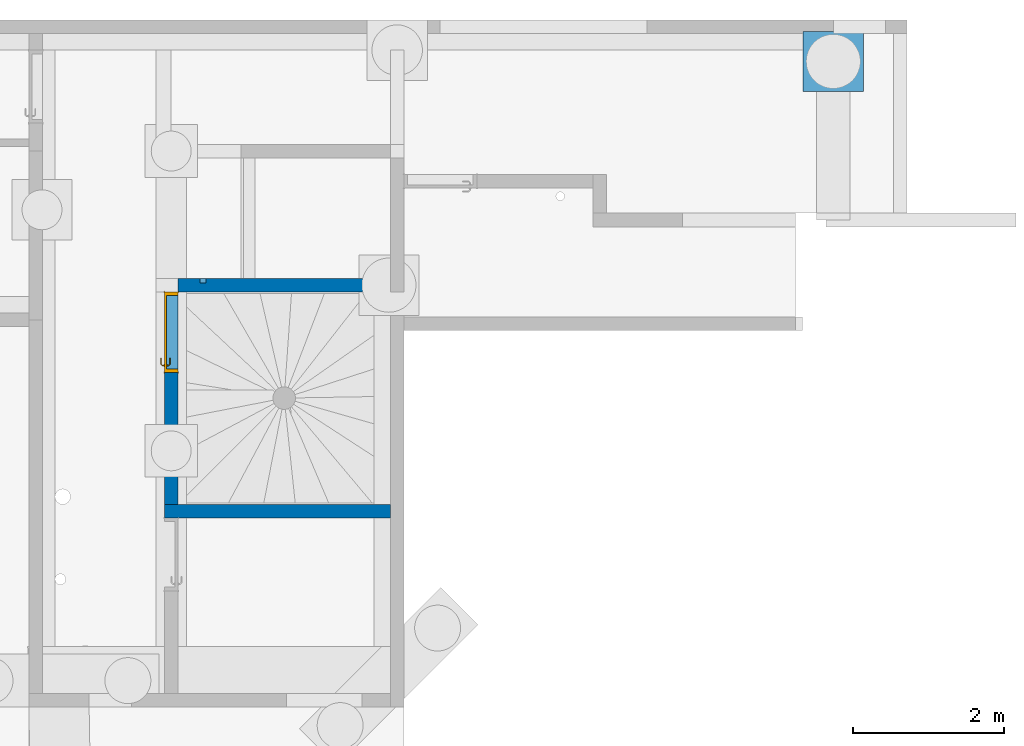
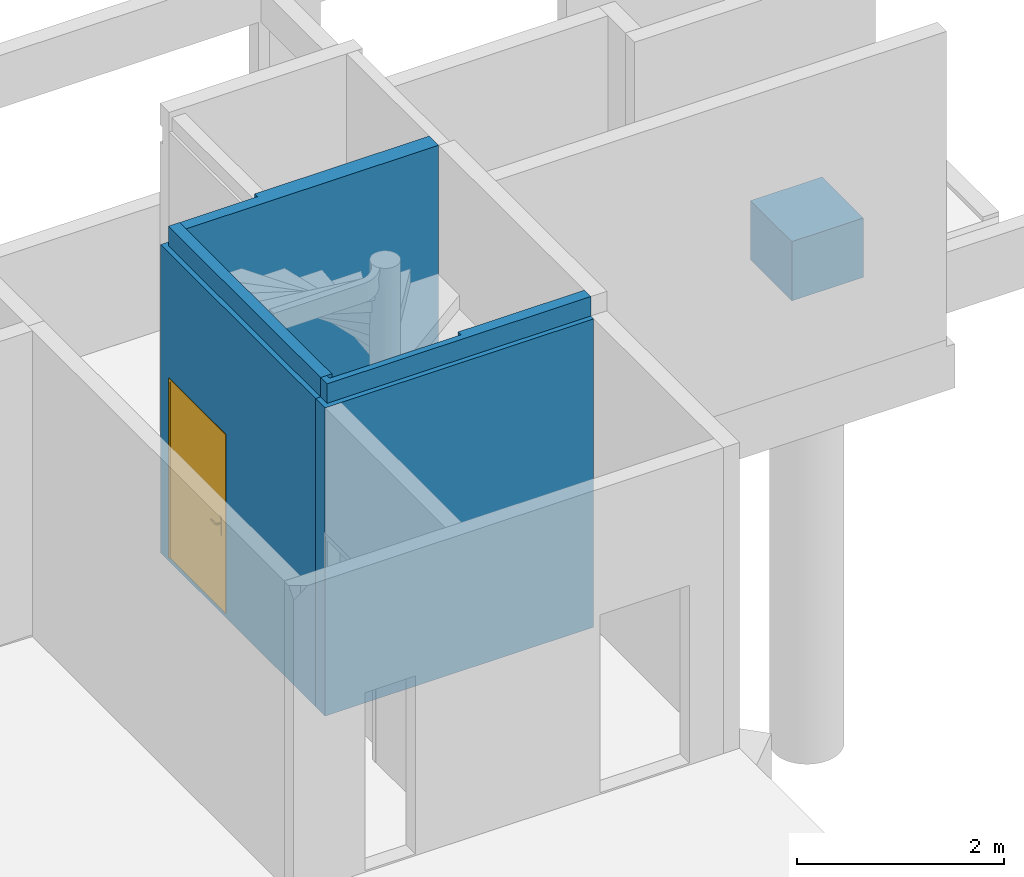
# One storey, part 12 of 14: 3 walls, 1 door, 1 slab, 1 opening.
"""IFC2X3 building model written with IfcOpenShell, lengths in centimetres."""

from ifc_helpers import new_model, entity, si_unit, converted_unit, derived_unit, direction, frame, frame_2d, origin, place, context, subcontext, project, spatial, rectangle, extrude, faceted_brep, source, transform, mapped, material, material_list, layer, layer_set, type_object, type_shapes, element, fill, save


model = new_model("IFC2X3")

# Units and contexts
model_context = context("Model", 3, precision=0.001, world=origin(), true_north=direction((6.12303176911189e-17, 1.0)))
body_context = subcontext(model_context, "Body", "Model", "MODEL_VIEW")
ifc_project = project(units=[si_unit("LENGTHUNIT", "METRE", prefix="CENTI"), si_unit("AREAUNIT", "SQUARE_METRE"), si_unit("VOLUMEUNIT", "CUBIC_METRE"), converted_unit("PLANEANGLEUNIT", "DEGREE", entity("IfcRatioMeasure", 0.0174532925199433), si_unit("PLANEANGLEUNIT", "RADIAN"), dimensions=[0, 0, 0, 0, 0, 0, 0]), si_unit("MASSUNIT", "GRAM", prefix="KILO"), derived_unit("MASSDENSITYUNIT", [(si_unit("MASSUNIT", "GRAM", prefix="KILO"), 1), (si_unit("LENGTHUNIT", "METRE"), -3)]), si_unit("TIMEUNIT", "SECOND"), si_unit("FREQUENCYUNIT", "HERTZ"), si_unit("THERMODYNAMICTEMPERATUREUNIT", "DEGREE_CELSIUS"), derived_unit("THERMALTRANSMITTANCEUNIT", [(si_unit("MASSUNIT", "GRAM", prefix="KILO"), 1), (si_unit("THERMODYNAMICTEMPERATUREUNIT", "KELVIN"), -1), (si_unit("TIMEUNIT", "SECOND"), -3)]), derived_unit("VOLUMETRICFLOWRATEUNIT", [(si_unit("LENGTHUNIT", "METRE"), 3), (si_unit("TIMEUNIT", "SECOND"), -1)]), si_unit("ELECTRICCURRENTUNIT", "AMPERE"), si_unit("ELECTRICVOLTAGEUNIT", "VOLT"), si_unit("POWERUNIT", "WATT"), si_unit("FORCEUNIT", "NEWTON"), si_unit("ILLUMINANCEUNIT", "LUX"), si_unit("LUMINOUSFLUXUNIT", "LUMEN"), si_unit("LUMINOUSINTENSITYUNIT", "CANDELA"), derived_unit("USERDEFINED", [(si_unit("MASSUNIT", "GRAM", prefix="KILO"), -1), (si_unit("LENGTHUNIT", "METRE"), -2), (si_unit("TIMEUNIT", "SECOND"), 3), (si_unit("LUMINOUSFLUXUNIT", "LUMEN"), 1)]), derived_unit("LINEARVELOCITYUNIT", [(si_unit("LENGTHUNIT", "METRE"), 1), (si_unit("TIMEUNIT", "SECOND"), -1)]), si_unit("PRESSUREUNIT", "PASCAL"), derived_unit("USERDEFINED", [(si_unit("LENGTHUNIT", "METRE"), -2), (si_unit("MASSUNIT", "GRAM", prefix="KILO"), 1), (si_unit("TIMEUNIT", "SECOND"), -2)])], contexts=[model_context])

# Site, building, storey
site_placement = place(None, origin())
site = spatial("IfcSite", under=ifc_project, at=site_placement, Name="Default", CompositionType="ELEMENT")
building_placement = place(site_placement, origin())
building = spatial("IfcBuilding", under=site, at=building_placement, Name="CAGE 03", CompositionType="ELEMENT")
storey_placement = place(building_placement, frame((0.0, 0.0, -42.0)))
storey = spatial("IfcBuildingStorey", under=building, at=storey_placement, Name="+3.58", CompositionType="ELEMENT", Elevation=-42.0000000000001)

# Slab
ifc_material_1 = material(Name="Béton, C25/30")
slab_placement = place(storey_placement, frame((11038.3658201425, 5198.66066607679, -155.0)))
element("IfcSlab", 1, at=slab_placement, inside=storey, material=ifc_material_1, Name="M_Base-Rectangulaire:80x80x70ht", ObjectType="M_Base-Rectangulaire:80x80x70ht", PredefinedType="BASESLAB", context=body_context, shape_type="Brep", body=[
    faceted_brep([(80.0, 80.0, 70.0), (0.0, 80.0, 70.0), (0.0, 0.0, 70.0), (80.0, 0.0, 70.0), (0.0, 0.0, 0.0), (4.0, 40.0, 0.0), (6.44952623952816, 33.6770439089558, 0.0), (0.0, 80.0, 0.0), (8.69783949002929, 27.8734784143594, 0.0), (11.0467592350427, 21.8102176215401, 0.0), (13.3956789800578, 15.7469568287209, 0.0), (20.8771744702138, 12.848610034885, 0.0), (28.3586699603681, 9.9502632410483, 0.0), (35.8401654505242, 7.05191644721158, 0.0), (43.3216609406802, 4.15356965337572, 0.0), (80.0, 0.0, 0.0), (6.44952614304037, 46.3229558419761, 0.0), (8.89905228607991, 52.6459116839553, 0.0), (11.1473656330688, 58.4494774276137, 0.0), (13.3956789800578, 64.253043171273, 0.0), (19.2163439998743, 67.1513899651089, 0.0), (25.0370090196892, 70.0497367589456, 0.0), (30.8576740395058, 72.9480835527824, 0.0), (36.6783390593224, 75.8464303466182, 0.0), (80.0, 80.0, 0.0), (76.0, 40.0, 0.0), (73.5504738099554, 46.3229559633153, 0.0), (71.3021605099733, 52.1265215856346, 0.0), (68.9532407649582, 58.1897823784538, 0.0), (66.6043210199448, 64.253043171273, 0.0), (59.1228255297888, 67.1513899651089, 0.0), (51.6413300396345, 70.0497367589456, 0.0), (44.1598345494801, 72.9480835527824, 0.0), (49.1423259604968, 7.05191644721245, 0.0), (54.9629909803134, 9.9502632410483, 0.0), (60.7836560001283, 12.8486100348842, 0.0), (66.6043210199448, 15.7469568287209, 0.0), (68.852634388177, 21.5505226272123, 0.0), (71.1009477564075, 27.3540884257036, 0.0), (73.5504738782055, 33.6770442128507, 0.0), (66.6043210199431, 15.7469568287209, 15.0), (59.1228255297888, 12.848610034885, 15.0), (51.6413300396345, 9.9502632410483, 15.0), (44.1598345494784, 7.05191644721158, 15.0), (36.6783390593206, 4.15356965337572, 15.0), (30.8576740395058, 7.05191644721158, 15.0), (25.0370090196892, 9.9502632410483, 15.0), (19.2163439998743, 12.848610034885, 15.0), (13.395678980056, 15.7469568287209, 15.0), (11.0467592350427, 21.8102176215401, 15.0), (8.69783949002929, 27.8734784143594, 15.0), (6.34891974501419, 33.9367392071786, 15.0), (4.0, 40.0, 15.0), (6.44952613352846, 46.322955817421, 15.0), (8.69783949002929, 52.1265215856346, 15.0), (11.0467592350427, 58.1897823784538, 15.0), (13.395678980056, 64.253043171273, 15.0), (20.8771744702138, 67.1513899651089, 15.0), (28.3586699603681, 70.0497367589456, 15.0), (35.8401654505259, 72.9480835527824, 15.0), (43.3216609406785, 75.8464303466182, 15.0), (49.1423259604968, 72.9480835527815, 15.0), (54.9629909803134, 70.0497367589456, 15.0), (60.78365600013, 67.1513899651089, 15.0), (66.6043210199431, 64.253043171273, 15.0), (68.9532407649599, 58.1897823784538, 15.0), (71.3021605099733, 52.1265215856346, 15.0), (73.6510802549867, 46.0632607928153, 15.0), (76.0, 40.0, 15.0), (73.5504738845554, 33.6770442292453, 15.0), (71.3021605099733, 27.8734784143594, 15.0), (68.9532407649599, 21.8102176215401, 15.0)], [[[0, 1, 2, 3]], [[4, 5, 6]], [[5, 4, 7]], [[4, 6, 8]], [[4, 8, 9]], [[4, 9, 10]], [[4, 10, 11]], [[4, 11, 12]], [[4, 12, 13]], [[4, 13, 14]], [[14, 15, 4]], [[7, 16, 5]], [[7, 17, 16]], [[7, 18, 17]], [[7, 19, 18]], [[7, 20, 19]], [[7, 21, 20]], [[7, 22, 21]], [[7, 23, 22]], [[23, 7, 24]], [[25, 24, 15]], [[24, 25, 26]], [[24, 26, 27]], [[24, 27, 28]], [[24, 28, 29]], [[24, 29, 30]], [[24, 30, 31]], [[24, 31, 32]], [[24, 32, 23]], [[15, 14, 33]], [[15, 33, 34]], [[15, 34, 35]], [[15, 35, 36]], [[15, 36, 37]], [[15, 37, 38]], [[15, 38, 39]], [[15, 39, 25]], [[2, 1, 7, 4]], [[3, 2, 4, 15]], [[0, 3, 15, 24]], [[1, 0, 24, 7]], [[40, 41, 42, 43, 44, 45, 46, 47, 48, 49, 50, 51, 52, 53, 54, 55, 56, 57, 58, 59, 60, 61, 62, 63, 64, 65, 66, 67, 68, 69, 70, 71]], [[9, 8, 6, 5, 52, 51, 50, 49, 48, 10]], [[36, 35, 40]], [[10, 48, 47]], [[14, 43, 33]], [[42, 33, 43]], [[37, 36, 40, 71, 70, 69, 68, 25, 39, 38]], [[35, 34, 41]], [[44, 43, 14]], [[42, 41, 34]], [[35, 41, 40]], [[47, 46, 11]], [[11, 46, 12]], [[12, 46, 45]], [[44, 13, 45]], [[11, 10, 47]], [[12, 45, 13]], [[44, 14, 13]], [[42, 34, 33]], [[29, 28, 27, 26, 25, 68, 67, 66, 65, 64]], [[31, 30, 62]], [[63, 29, 64]], [[57, 56, 20]], [[18, 19, 56, 55, 54, 53, 52, 5, 16, 17]], [[20, 21, 57]], [[56, 19, 20]], [[23, 32, 60]], [[30, 29, 63]], [[62, 30, 63]], [[31, 61, 32]], [[23, 59, 22]], [[57, 21, 58]], [[58, 21, 22]], [[60, 32, 61]], [[31, 62, 61]], [[58, 22, 59]], [[23, 60, 59]]]),
])

# Wall
ifc_layer = layer(ifc_material_1, 18.0)
ifc_layer_set = layer_set([ifc_layer], Name="Mur de base:Voile BA 18")
wall_type = type_object("IfcWallType", Name="Mur de base:Voile BA 18", PredefinedType="STANDARD", material=ifc_layer_set)
wall_1_placement = place(storey_placement, frame((10490.3658201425, 4641.66066607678, -5.0), z_axis=(0.0, 0.0, 1.0), x_axis=(-1.0, 0.0, 0.0)))
element("IfcWall", 2, at=wall_1_placement, inside=storey, type_object=wall_type, Name="Mur de base:Voile BA 18", ObjectType="Mur de base:Voile BA 18", context=body_context, shape_type="Brep", body=[
    faceted_brep([(0.0, -9.0, 0.0), (282.0, -9.0, 0.0), (300.0, -9.0, 0.0), (300.0, -9.0, 364.0), (294.499999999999, -9.0, 364.0), (294.499999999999, -9.0, 387.0), (287.50000000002, -9.0, 387.0), (287.50000000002, -9.0, 367.0), (141.0, -9.0, 367.0), (141.0, -9.0, 387.0), (0.0, -9.0, 387.0), (300.0, 9.0, 0.0), (0.0, 9.0, 0.0), (0.0, 9.0, 364.0), (282.0, 9.0, 364.0), (300.0, 9.0, 364.0), (300.0, 9.0, 215.0), (294.499999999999, 3.50000000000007, 387.0), (0.0, 3.50000000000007, 387.0), (141.0, -3.49999999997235, 387.0), (287.500000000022, -3.50000000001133, 387.0), (0.0, 3.50000000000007, 364.0), (294.499999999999, 3.50000000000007, 364.0), (287.500000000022, -3.50000000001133, 367.0), (141.0, -3.49999999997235, 367.0)], [[[0, 1, 2, 3, 4, 5, 6, 7, 8, 9, 10]], [[11, 12, 13, 14, 15, 16]], [[2, 1, 0, 12, 11]], [[5, 17, 18, 10, 9, 19, 20, 6]], [[0, 10, 18, 21, 13, 12]], [[2, 11, 16, 15, 3]], [[22, 4, 3, 15, 14, 13, 21]], [[22, 17, 5, 4]], [[17, 22, 21, 18]], [[23, 24, 8, 7]], [[24, 19, 9, 8]], [[20, 23, 7, 6]], [[24, 23, 20, 19]]]),
])

# Wall, opening, door
wall_2_placement = place(storey_placement, frame((10199.3658201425, 4650.66066607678, -5.0), z_axis=(0.0, 0.0, 1.0), x_axis=(0.0, 1.0, 0.0)))
wall_2 = element("IfcWall", 3, at=wall_2_placement, inside=storey, type_object=wall_type, Name="Mur de base:Voile BA 18", ObjectType="Mur de base:Voile BA 18", context=body_context, shape_type="Brep", body=[
    faceted_brep([(0.0, -9.0, 0.0), (282.0, -9.0, 0.0), (300.0, -9.0, 0.0), (300.0, -9.0, 364.0), (294.500000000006, -9.0, 364.0), (294.500000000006, -9.0, 387.0), (282.0, -9.0, 387.0), (107.0, -9.0, 387.0), (0.0, -9.0, 387.0), (282.0, -9.0, 215.0), (282.0, -9.0, 5.0), (175.0, -9.0, 5.0), (175.0, -9.0, 215.0), (300.0, 9.0, 0.0), (0.0, 9.0, 0.0), (0.0, 9.0, 364.0), (300.0, 9.0, 364.0), (282.0, 9.0, 5.0), (282.0, 9.0, 215.0), (175.0, 9.0, 215.0), (175.0, 9.0, 5.0), (294.500000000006, 3.49999999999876, 387.0), (0.0, 3.49999999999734, 387.0), (0.0, -3.49999999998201, 387.0), (0.0, 3.49999999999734, 364.0), (294.500000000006, 3.49999999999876, 364.0)], [[[0, 1, 2, 3, 4, 5, 6, 7, 8], [9, 10, 11, 12]], [[13, 14, 15, 16], [17, 18, 19, 20]], [[2, 1, 0, 14, 13]], [[8, 7, 6, 5, 21, 22, 23]], [[2, 13, 16, 3]], [[17, 10, 9, 18]], [[18, 9, 12, 19]], [[11, 20, 19, 12]], [[10, 17, 20, 11]], [[14, 0, 8, 23, 22, 24, 15]], [[25, 4, 3, 16, 15, 24]], [[21, 25, 24, 22]], [[25, 21, 5, 4]]]),
])
opening_placement = place(wall_2_placement, frame((175.0, -9.0, 5.0)))
opening = element("IfcOpeningElement", 4, at=opening_placement, cuts=wall_2, Name="Int. Simple:HB103:1", ObjectType="Opening", context=body_context, shape_type="SweptSolid", body=[
    extrude(rectangle(XDim=210.000000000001, YDim=107.0, at=frame_2d((105.000000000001, 53.4999999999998), x_axis=(1.0, 0.0))), frame((0.0, 0.0, 0.0), z_axis=(0.0, 1.0, 0.0), x_axis=(0.0, 0.0, 1.0)), (0.0, 0.0, 1.0), 18.0),
])
ifc_material_2 = material(Name="Finition Peinture - Blanc satiné")
ifc_material_3 = material(Name="Bois - Panneau de porte")
ifc_material_4 = material(Name="Bois - Cadre de porte")
ifc_material_list_1 = material_list([ifc_material_2, ifc_material_3, ifc_material_4])
ifc_material_list_2 = material_list([ifc_material_2, ifc_material_3, ifc_material_4])
door_style = type_object("IfcDoorStyle", Name="HB103", ConstructionType="NOTDEFINED", OperationType="SINGLE_SWING_RIGHT", ParameterTakesPrecedence=False, Sizeable=False, material=ifc_material_list_2)
shared_shape = source(origin(), body_context, "Body", "Brep", [
    faceted_brep([(106.500000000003, -0.500000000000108, 87.0), (106.500000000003, -0.500000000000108, 108.0), (105.535276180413, -0.500000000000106, 108.399601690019), (104.500000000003, -0.500000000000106, 108.535898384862), (103.464723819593, -0.500000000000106, 108.399601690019), (102.500000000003, -0.500000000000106, 108.0), (102.500000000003, -0.500000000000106, 87.0), (103.464723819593, -0.500000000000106, 86.6003983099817), (104.500000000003, -0.500000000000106, 86.464101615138), (105.535276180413, -0.500000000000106, 86.6003983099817), (106.500000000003, 0.0, 108.0), (106.500000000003, 0.0, 87.0), (105.535276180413, 0.0, 86.6003983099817), (104.500000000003, 0.0, 86.464101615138), (103.464723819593, 0.0, 86.6003983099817), (102.500000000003, 0.0, 87.0), (102.500000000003, 0.0, 108.0), (103.464723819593, 0.0, 108.399601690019), (104.500000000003, 0.0, 108.535898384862), (105.535276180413, 0.0, 108.399601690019)], [[[0, 1, 2, 3, 4, 5, 6, 7, 8, 9]], [[10, 11, 12, 13, 14, 15, 16, 17, 18, 19]], [[9, 12, 11, 0]], [[8, 13, 12, 9]], [[7, 14, 13, 8]], [[7, 6, 15, 14]], [[15, 6, 5, 16]], [[4, 17, 16, 5]], [[3, 18, 17, 4]], [[2, 19, 18, 3]], [[2, 1, 10, 19]], [[11, 10, 1, 0]]]),
    faceted_brep([(106.500000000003, 3.0, 87.0), (106.500000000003, 3.0, 108.0), (105.535276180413, 3.0, 108.399601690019), (104.500000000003, 3.0, 108.535898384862), (103.464723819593, 3.0, 108.399601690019), (102.500000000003, 3.0, 108.0), (102.500000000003, 3.0, 87.0), (103.464723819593, 3.0, 86.6003983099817), (104.500000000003, 3.0, 86.464101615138), (105.535276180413, 3.0, 86.6003983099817), (104.500000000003, 3.49999999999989, 108.535898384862), (105.535276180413, 3.49999999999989, 108.399601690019), (106.500000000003, 3.49999999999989, 108.0), (106.500000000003, 3.49999999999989, 87.0), (105.535276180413, 3.49999999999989, 86.6003983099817), (104.500000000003, 3.49999999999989, 86.464101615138), (103.464723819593, 3.49999999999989, 86.6003983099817), (102.500000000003, 3.49999999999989, 87.0), (102.500000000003, 3.49999999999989, 108.0), (103.464723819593, 3.49999999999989, 108.399601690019)], [[[0, 1, 2, 3, 4, 5, 6, 7, 8, 9]], [[10, 11, 12, 13, 14, 15, 16, 17, 18, 19]], [[4, 19, 18, 5]], [[3, 10, 19, 4]], [[2, 11, 10, 3]], [[2, 1, 12, 11]], [[13, 12, 1, 0]], [[9, 14, 13, 0]], [[8, 15, 14, 9]], [[7, 16, 15, 8]], [[7, 6, 17, 16]], [[17, 6, 5, 18]]]),
    faceted_brep([(104.297470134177, -0.500000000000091, 100.778044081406), (104.702529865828, -0.500000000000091, 100.778044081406), (105.100000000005, -0.500000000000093, 100.699999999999), (105.100000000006, -0.500000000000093, 99.299999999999), (104.702529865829, -0.500000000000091, 99.2219559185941), (104.297470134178, -0.500000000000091, 99.2219559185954), (103.9, -0.500000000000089, 99.3000000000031), (103.9, -0.500000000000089, 100.7), (104.702529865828, -3.1004575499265, 100.778044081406), (105.100000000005, -3.26509507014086, 100.7), (104.297470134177, -2.93267631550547, 100.778044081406), (102.92986024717, -4.30028620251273, 100.778044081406), (103.097641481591, -4.70534593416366, 100.778044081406), (103.9, -2.76803879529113, 100.7), (103.9, -2.76803879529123, 99.3000000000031), (104.297470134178, -2.93267631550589, 99.2219559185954), (104.702529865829, -3.10045754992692, 99.2219559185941), (103.097641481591, -4.70534593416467, 99.2219559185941), (102.92986024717, -4.30028620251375, 99.2219559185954), (105.100000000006, -3.26509507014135, 99.299999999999), (103.262279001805, -5.10281606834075, 100.7), (102.765222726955, -3.90281606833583, 100.7), (102.765222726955, -3.90281606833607, 99.3000000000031), (103.262279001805, -5.10281606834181, 99.299999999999), (94.4981359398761, -5.1028160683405, 100.7), (94.4981359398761, -4.7053459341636, 100.778044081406), (94.4981359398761, -4.30028620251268, 100.778044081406), (94.4981359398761, -3.90281606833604, 100.699999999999), (94.4981359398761, -3.90281606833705, 99.3000000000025), (94.4981359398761, -4.30028620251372, 99.2219559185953), (94.4981359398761, -4.70534593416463, 99.2219559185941), (94.4981359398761, -5.10281606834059, 99.2999999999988), (98.7139980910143, -4.50281606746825, 100.78786867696), (99.2692302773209, -5.10281606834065, 100.7), (98.6316793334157, -3.90281606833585, 100.7), (98.6316793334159, -3.90281606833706, 99.3000000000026), (98.7139981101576, -4.50281607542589, 99.2121313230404), (99.2692299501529, -5.10281606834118, 99.2999999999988)], [[[0, 1, 2, 3, 4, 5, 6, 7]], [[2, 1, 8, 9]], [[1, 0, 10, 11, 12, 8]], [[0, 7, 13, 10]], [[14, 13, 7, 6]], [[5, 15, 14, 6]], [[5, 4, 16, 17, 18, 15]], [[3, 19, 16, 4]], [[9, 19, 3, 2]], [[9, 8, 12, 20]], [[10, 13, 21, 11]], [[22, 21, 13, 14]], [[14, 15, 18, 22]], [[16, 19, 23, 17]], [[20, 23, 19, 9]], [[24, 25, 26, 27, 28, 29, 30, 31]], [[32, 25, 33]], [[33, 25, 24]], [[33, 20, 12]], [[11, 34, 32]], [[34, 11, 21]], [[27, 26, 34]], [[32, 26, 25]], [[32, 34, 26]], [[32, 33, 12]], [[11, 32, 12]], [[21, 22, 35, 28, 27, 34]], [[36, 29, 35]], [[30, 36, 37]], [[18, 35, 22]], [[29, 28, 35]], [[30, 37, 31]], [[37, 17, 23]], [[36, 17, 37]], [[36, 18, 17]], [[36, 35, 18]], [[29, 36, 30]], [[23, 20, 33, 24, 31, 37]]]),
    faceted_brep([(104.297470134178, 3.49999999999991, 99.2219559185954), (104.702529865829, 3.49999999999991, 99.2219559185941), (105.100000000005, 3.4999999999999, 99.2999999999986), (105.100000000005, 3.4999999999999, 100.7), (104.702529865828, 3.49999999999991, 100.778044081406), (104.297470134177, 3.49999999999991, 100.778044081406), (103.9, 3.49999999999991, 100.7), (103.900000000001, 3.49999999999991, 99.3000000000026), (103.9, 5.74852045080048, 100.7), (103.9, 5.74852045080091, 99.3000000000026), (104.297470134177, 5.91315797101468, 100.778044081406), (104.702529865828, 6.08093920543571, 100.778044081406), (103.083890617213, 7.69957845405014, 100.778044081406), (102.916109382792, 7.29451872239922, 100.778044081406), (105.100000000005, 6.24557672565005, 100.7), (105.100000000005, 6.2455767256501, 99.2999999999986), (104.702529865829, 6.08093920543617, 99.2219559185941), (104.297470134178, 5.91315797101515, 99.2219559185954), (102.916109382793, 7.29451872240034, 99.2219559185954), (103.083890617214, 7.69957845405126, 99.2219559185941), (102.751471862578, 6.89704858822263, 100.7), (102.751471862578, 6.89704858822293, 99.3000000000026), (103.248528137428, 8.09704858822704, 100.7), (103.248528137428, 8.09704858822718, 99.2999999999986), (94.4954216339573, 7.29451872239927, 100.778044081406), (94.4954216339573, 7.6995784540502, 100.778044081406), (94.4954216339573, 8.0970485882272, 100.7), (94.4954216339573, 8.09704858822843, 99.299999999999), (94.4954216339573, 7.6995784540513, 99.2219559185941), (94.4954216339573, 7.29451872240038, 99.2219559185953), (94.4954216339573, 6.89704858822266, 99.3000000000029), (94.4954216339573, 6.89704858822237, 100.7), (98.6234467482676, 6.89704858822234, 100.7), (98.6234479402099, 6.89704858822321, 99.3000000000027), (98.7057655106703, 7.4970485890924, 100.78786867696), (99.255479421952, 8.09704858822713, 100.7), (99.2554794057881, 8.09704858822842, 99.299999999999), (98.7057654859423, 7.49704858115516, 99.2121313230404)], [[[0, 1, 2, 3, 4, 5, 6, 7]], [[8, 9, 7, 6]], [[5, 10, 8, 6]], [[5, 4, 11, 12, 13, 10]], [[3, 14, 11, 4]], [[14, 3, 2, 15]], [[2, 1, 16, 15]], [[1, 0, 17, 18, 19, 16]], [[0, 7, 9, 17]], [[20, 21, 9, 8]], [[8, 10, 13, 20]], [[14, 22, 12, 11]], [[23, 22, 14, 15]], [[15, 16, 19, 23]], [[17, 9, 21, 18]], [[24, 25, 26, 27, 28, 29, 30, 31]], [[20, 32, 31, 30, 33, 21]], [[34, 24, 32]], [[25, 34, 35]], [[13, 32, 20]], [[24, 31, 32]], [[25, 35, 26]], [[35, 12, 22]], [[34, 12, 35]], [[34, 13, 12]], [[34, 32, 13]], [[24, 34, 25]], [[22, 23, 36, 27, 26, 35]], [[37, 28, 36]], [[36, 28, 27]], [[36, 23, 19]], [[18, 33, 37]], [[33, 18, 21]], [[30, 29, 33]], [[37, 29, 28]], [[37, 33, 29]], [[37, 36, 19]], [[18, 37, 19]]]),
    faceted_brep([(110.500000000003, 3.0, 206.5), (110.500000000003, 3.0, 0.0), (10.5000000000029, 3.0, 0.0), (10.5000000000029, 3.0, 206.5), (110.500000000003, 0.0, 206.5), (10.5000000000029, 0.0, 206.5), (10.5000000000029, 0.0, 0.0), (110.500000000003, 0.0, 0.0)], [[[0, 1, 2, 3]], [[4, 5, 6, 7]], [[3, 5, 4, 0]], [[2, 6, 5, 3]], [[1, 7, 6, 2]], [[0, 4, 7, 1]]]),
    faceted_brep([(114.0, 0.0, 0.0), (110.500000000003, 0.0, 0.0), (110.500000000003, 3.0, 0.0), (109.0, 3.0, 0.0), (109.0, 18.0, 0.0), (114.0, 18.0, 0.0), (114.0, 18.0, 210.0), (114.0, 0.0, 210.0), (109.0, 18.0, 205.0), (12.0, 18.0, 205.0), (12.0, 18.0, 0.0), (7.0, 18.0, 0.0), (7.0, 18.0, 210.0), (109.0, 3.0, 205.0), (110.500000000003, 3.0, 206.5), (10.5000000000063, 3.0, 206.5), (10.5000000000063, 3.0, 0.0), (12.0, 3.0, 0.0), (12.0, 3.0, 205.0), (110.500000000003, 0.0, 206.5), (7.0, 0.0, 210.0), (7.0, 0.0, 0.0), (10.5000000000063, 0.0, 0.0), (10.5000000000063, 0.0, 206.5)], [[[0, 1, 2, 3, 4, 5]], [[5, 6, 7, 0]], [[4, 8, 9, 10, 11, 12, 6, 5]], [[3, 13, 8, 4]], [[2, 14, 15, 16, 17, 18, 13, 3]], [[1, 19, 14, 2]], [[0, 7, 20, 21, 22, 23, 19, 1]], [[12, 11, 21, 20]], [[21, 11, 10, 17, 16, 22]], [[18, 17, 10, 9]], [[23, 22, 16, 15]], [[6, 12, 20, 7]], [[13, 18, 9, 8]], [[19, 23, 15, 14]]]),
    faceted_brep([(112.500000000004, 18.0, 0.0), (112.500000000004, 18.5000000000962, 0.0), (115.500000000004, 18.5000000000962, 0.0), (115.500000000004, 18.0, 0.0), (115.500000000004, 18.0, 211.500000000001), (5.50000000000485, 18.0, 211.500000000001), (5.50000000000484, 18.0, 0.0), (8.50000000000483, 18.0, 0.0), (8.50000000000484, 18.0, 208.500000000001), (112.500000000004, 18.0, 208.500000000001), (115.500000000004, 18.5000000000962, 211.500000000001), (112.500000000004, 18.5000000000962, 208.500000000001), (8.50000000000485, 18.5000000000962, 208.500000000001), (8.50000000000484, 18.5000000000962, 0.0), (5.50000000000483, 18.5000000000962, 0.0), (5.50000000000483, 18.5000000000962, 211.500000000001)], [[[0, 1, 2, 3]], [[3, 4, 5, 6, 7, 8, 9, 0]], [[2, 10, 4, 3]], [[1, 11, 12, 13, 14, 15, 10, 2]], [[0, 9, 11, 1]], [[7, 6, 14, 13]], [[8, 7, 13, 12]], [[15, 14, 6, 5]], [[10, 15, 5, 4]], [[9, 8, 12, 11]]]),
    faceted_brep([(115.500000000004, -0.5, 0.0), (115.500000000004, -0.5, 211.500000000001), (5.50000000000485, -0.5, 211.500000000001), (5.50000000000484, -0.5, 0.0), (8.50000000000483, -0.5, 0.0), (8.50000000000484, -0.5, 208.500000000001), (112.500000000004, -0.5, 208.500000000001), (112.500000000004, -0.5, 0.0), (115.500000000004, 0.0, 0.0), (115.500000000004, 0.0, 211.500000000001), (112.500000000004, 0.0, 0.0), (112.500000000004, 0.0, 208.500000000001), (8.50000000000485, 0.0, 208.500000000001), (8.50000000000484, 0.0, 0.0), (5.50000000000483, 0.0, 0.0), (5.50000000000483, 0.0, 211.500000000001)], [[[0, 1, 2, 3, 4, 5, 6, 7]], [[8, 9, 1, 0]], [[10, 11, 12, 13, 14, 15, 9, 8]], [[7, 6, 11, 10]], [[5, 4, 13, 12]], [[15, 14, 3, 2]], [[9, 15, 2, 1]], [[6, 5, 12, 11]], [[4, 3, 14, 13]], [[7, 10, 8, 0]]]),
])
type_shapes(door_style, [shared_shape])
door_placement = place(opening_placement, frame((114.0, 18.0, 0.0), z_axis=(0.0, 0.0, 1.0), x_axis=(-1.0, 0.0, 0.0)))
door = element("IfcDoor", 5, at=door_placement, inside=storey, type_object=door_style, material=ifc_material_list_1, Name="Int. Simple:HB103", ObjectType="HB103", OverallHeight=210.000000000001, OverallWidth=107.0, context=body_context, shape_type="MappedRepresentation", body=[
    mapped(shared_shape, transform((0.0, 0.0, 0.0), scale=1.0)),
])
fill(opening, door)

# Wall
wall_3_placement = place(storey_placement, frame((10208.3658201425, 4941.66066607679, -5.0)))
element("IfcWall", 6, at=wall_3_placement, inside=storey, type_object=wall_type, Name="Mur de base:Voile BA 18", ObjectType="Mur de base:Voile BA 18", context=body_context, shape_type="Brep", body=[
    faceted_brep([(0.0, -9.0, 0.0), (87.0, -9.0, 0.0), (282.0, -9.0, 0.0), (282.0, -9.0, 387.0), (0.0, -9.0, 387.0), (0.0, -9.0, 215.0), (0.0, -9.0, 5.0), (282.0, 9.0, 0.0), (87.0, 9.0, 0.0), (0.0, 9.0, 0.0), (0.0, 9.0, 364.0), (87.0, 9.0, 364.0), (87.0, 9.0, 387.0), (282.0, 9.0, 387.0), (29.0, 9.0, 120.5), (29.0, 9.0, 99.5000000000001), (37.0, 9.0, 99.5000000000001), (37.0, 9.0, 120.5), (87.0, 3.50000000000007, 387.0), (0.0, 3.50000000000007, 387.0), (0.0, 3.50000000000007, 364.0), (87.0, 3.50000000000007, 364.0), (37.0, 3.0, 120.5), (37.0, 3.0, 99.5000000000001), (29.0, 3.0, 99.5000000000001), (29.0, 3.0, 120.5)], [[[0, 1, 2, 3, 4, 5, 6]], [[7, 8, 9, 10, 11, 12, 13], [14, 15, 16, 17]], [[2, 1, 0, 9, 8, 7]], [[4, 3, 13, 12, 18, 19]], [[0, 6, 5, 4, 19, 20, 10, 9]], [[3, 2, 7, 13]], [[20, 21, 11, 10]], [[21, 18, 12, 11]], [[18, 21, 20, 19]], [[22, 23, 24, 25]], [[25, 24, 15, 14]], [[24, 23, 16, 15]], [[23, 22, 17, 16]], [[22, 25, 14, 17]]]),
])

save(model, "model.ifc")
